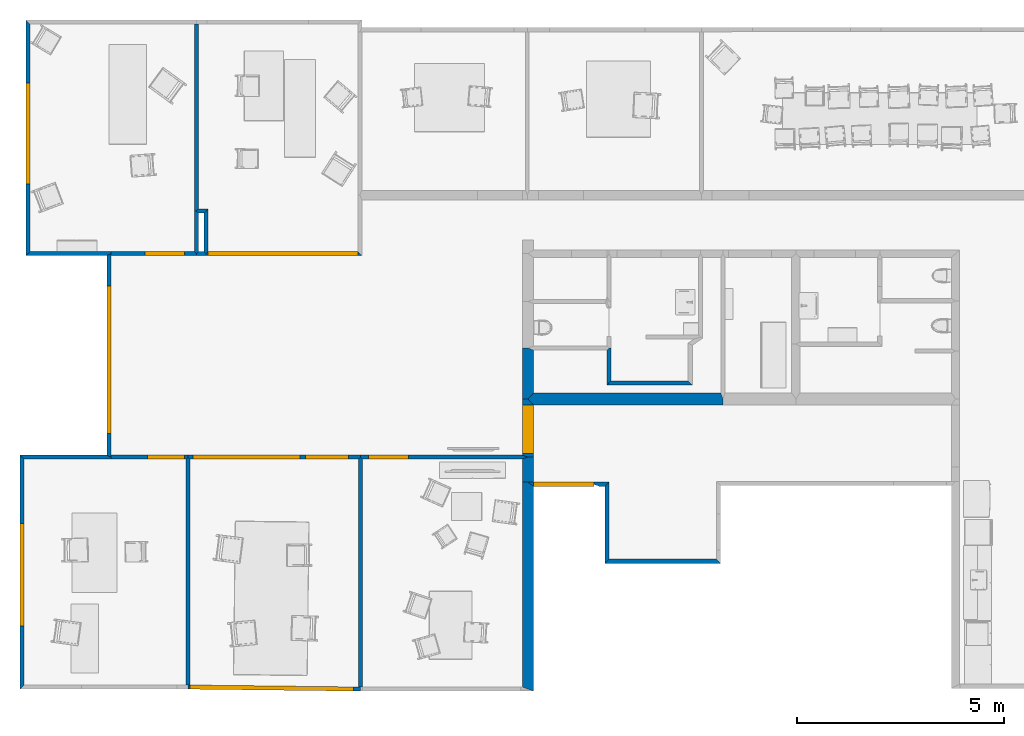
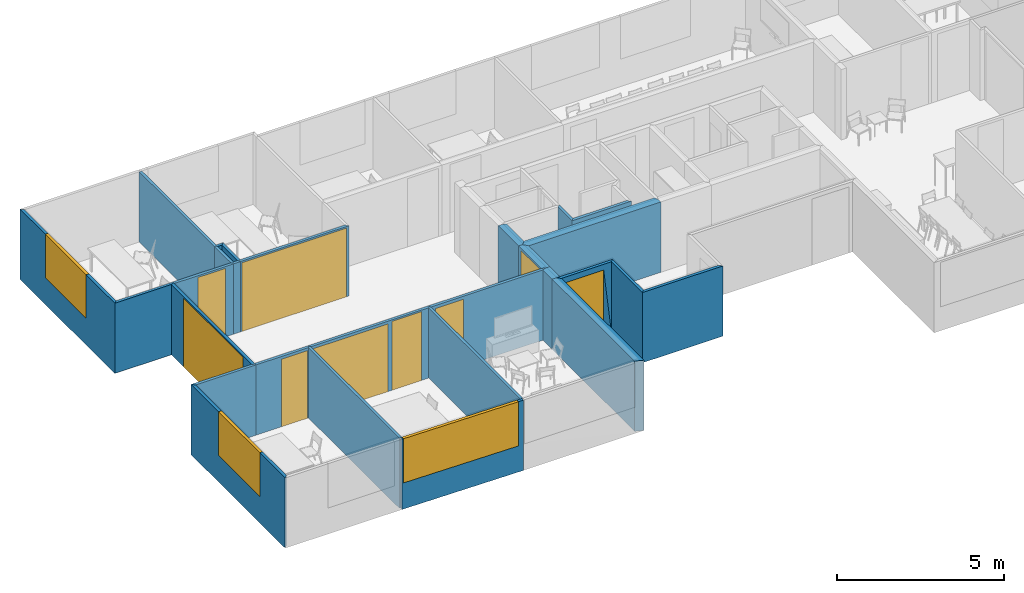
# One storey, part 2 of 26: 28 walls, 8 doors, 4 windows, 12 openings.
"""IFC2X3 building model written with IfcOpenShell, lengths in metres."""

from ifc_helpers import new_model, si_unit, direction, frame, origin_with_axes, place, context, subcontext, project, spatial, polyline, outline, extrude, type_object, element, fill, save


model = new_model("IFC2X3")

# Units and contexts
model_context = context("Model", 3, precision=1e-05, world=origin_with_axes(), true_north=direction((0.996, -0.093, 0.0)))
body_context = subcontext(model_context, "Body", "Model", "MODEL_VIEW")
ifc_project = project(units=[si_unit("AREAUNIT", "SQUARE_METRE"), si_unit("LENGTHUNIT", "METRE")], contexts=[model_context])

# Site, building, storey
site_placement = place(None, origin_with_axes())
site = spatial("IfcSite", under=ifc_project, at=site_placement, Name="Site", CompositionType="ELEMENT")
building_placement = place(site_placement, origin_with_axes())
building = spatial("IfcBuilding", under=site, at=building_placement, Name="Building", CompositionType="ELEMENT")
storey_placement = place(building_placement, frame((0.0, 0.0, 0.0500001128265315), z_axis=(0.0, 0.0, 1.0), x_axis=(1.0, 0.0, 0.0)))
storey = spatial("IfcBuildingStorey", under=building, at=storey_placement, Name="Story 0", CompositionType="ELEMENT", Elevation=0.0499999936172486)

# Walls
wall_type_1 = type_object("IfcWallType", PredefinedType="STANDARD")
wall_1_placement = place(storey_placement, frame((5.97817115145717, 0.769211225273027, 0.0), z_axis=(0.0, 0.0, 1.0), x_axis=(1.0, 0.0, 0.0)))
element("IfcWallStandardCase", 1, at=wall_1_placement, inside=storey, type_object=wall_type_1, Name="Wall", context=body_context, shape_type="SweptSolid", body=[
    extrude(outline(polyline([(0.0, 0.0), (0.0463823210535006, 0.0463823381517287), (0.0927646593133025, 1.72635581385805e-08), (0.0927656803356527, -5.50465695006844), (0.0463833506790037, -5.50465696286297), (1.02091997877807e-06, -5.5041050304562), (0.0, 0.0)])), origin_with_axes(), (0.0, 0.0, 1.0), 2.5729394),
])
wall_type_2 = type_object("IfcWallType", PredefinedType="STANDARD")
wall_2_placement = place(storey_placement, frame((1.81270429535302, 0.76921045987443, 0.0), z_axis=(0.0, 0.0, 1.0), x_axis=(1.0, 0.0, 0.0)))
element("IfcWallStandardCase", 2, at=wall_2_placement, inside=storey, type_object=wall_type_2, Name="Wall", context=body_context, shape_type="SweptSolid", body=[
    extrude(outline(polyline([(0.0, 0.0), (0.046382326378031, 0.0463823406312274), (0.0927646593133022, 1.94696530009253e-08), (0.0927650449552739, -5.45564062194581), (0.0463827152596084, -5.4550886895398), (3.85602955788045e-07, -5.45508869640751), (0.0, 0.0)])), origin_with_axes(), (0.0, 0.0, 1.0), 2.5729394),
])

# Wall, opening, window
wall_type_3 = type_object("IfcWallType", PredefinedType="STANDARD")
wall_3_placement = place(storey_placement, frame((1.85789712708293, -4.7858711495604, 0.0), z_axis=(0.0, 0.0, 1.0), x_axis=(1.0, 0.0, 0.0)))
wall_3 = element("IfcWallStandardCase", 3, at=wall_3_placement, inside=storey, type_object=wall_type_3, Name="Wall", context=body_context, shape_type="SweptSolid", body=[
    extrude(outline(polyline([(0.0, 0.0), (0.00118988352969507, 0.0999929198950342), (0.0475722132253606, 0.0994409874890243), (4.12027504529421, 0.0509773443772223), (4.16665737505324, 0.0504254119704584), (4.16546749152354, -0.0495675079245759), (0.0, 0.0)])), origin_with_axes(), (0.0, 0.0, 1.0), 2.5729394),
])
opening_1_placement = place(wall_3_placement, frame((4.00351913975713, 0.0523666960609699, 0.95597679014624), z_axis=(0.0, 0.0, 1.0), x_axis=(-0.999929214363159, 0.0118987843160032, 0.0)))
opening_1 = element("IfcOpeningElement", 4, at=opening_1_placement, cuts=wall_3, Name="OpeningElement", ObjectType="OPENING", context=body_context, shape_type="SweptSolid", body=[
    extrude(outline(polyline([(-8.88178419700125e-16, 0.0), (3.95622619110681, 0.0), (3.95622619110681, 1.6169624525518), (-8.88178419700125e-16, 1.6169624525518), (-8.88178419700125e-16, 0.0)])), frame((0.0, 0.0, 0.0), z_axis=(0.0, -1.0, 0.0), x_axis=(1.0, 0.0, 0.0)), (0.0, 0.0, -1.0), 0.100099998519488),
])
window_style_1 = type_object("IfcWindowStyle", Name="0eed9ed4-4338-484c-94e7-a7655e26b1a2", ConstructionType="ALUMINIUM", OperationType="SINGLE_PANEL", ParameterTakesPrecedence=True, Sizeable=True)
window_1_placement = place(opening_1_placement, origin_with_axes())
window_1 = element("IfcWindow", 5, at=window_1_placement, inside=storey, type_object=window_style_1, Name="Window", OverallHeight=1.5, OverallWidth=0.5, context=body_context, shape_type="SweptSolid", body=[
    extrude(outline(polyline([(0.0, 0.0), (-3.95622606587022, 0.0), (-3.95622606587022, 1.61696247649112), (0.0, 1.61696247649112), (0.0, 0.0)])), frame((0.0, 0.099999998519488, 0.0), z_axis=(0.0, 1.0, 0.0), x_axis=(-1.0, 0.0, 0.0)), (0.0, 0.0, -1.0), 0.099999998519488),
])
fill(opening_1, window_1)

# Wall, openings, door, window
wall_type_4 = type_object("IfcWallType", PredefinedType="STANDARD")
wall_4_placement = place(storey_placement, frame((1.90546895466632, 0.769210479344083, 0.0), z_axis=(0.0, 0.0, 1.0), x_axis=(1.0, 0.0, 0.0)))
wall_4 = element("IfcWallStandardCase", 6, at=wall_4_placement, inside=storey, type_object=wall_type_4, Name="Wall", context=body_context, shape_type="SweptSolid", body=[
    extrude(outline(polyline([(0.0, 0.0), (-0.0463823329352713, 0.0463823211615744), (-0.0463823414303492, 0.0927646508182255), (4.11908450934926, 0.0927654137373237), (4.11908451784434, 0.0463830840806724), (4.07270219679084, 7.45928943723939e-07), (0.0, 0.0)])), origin_with_axes(), (0.0, 0.0, 1.0), 2.5729394),
])
opening_2_placement = place(wall_4_placement, frame((3.827372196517, 0.092765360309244, 0.0), z_axis=(0.0, 0.0, 1.0), x_axis=(-1.00000000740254, 0.0, 0.0)))
opening_2 = element("IfcOpeningElement", 7, at=opening_2_placement, cuts=wall_4, Name="OpeningElement", ObjectType="OPENING", context=body_context, shape_type="SweptSolid", body=[
    extrude(outline(polyline([(8.88178419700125e-16, 0.0), (1.03013872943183, 0.0), (1.03013872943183, 2.51796546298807), (8.88178419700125e-16, 2.51796546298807), (8.88178419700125e-16, 0.0)])), frame((0.0, 0.0, 0.0), z_axis=(0.0, -1.0, 0.0), x_axis=(1.0, 0.0, 0.0)), (0.0, 0.0, -1.0), 0.0928646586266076),
])
opening_3_placement = place(wall_4_placement, frame((2.66170919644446, 0.0927651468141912, 0.0), z_axis=(0.0, 0.0, 1.0), x_axis=(-1.00000000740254, 0.0, 0.0)))
opening_3 = element("IfcOpeningElement", 8, at=opening_3_placement, cuts=wall_4, Name="OpeningElement", ObjectType="OPENING", context=body_context, shape_type="SweptSolid", body=[
    extrude(outline(polyline([(0.0, 0.0), (2.58160064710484, 0.0), (2.58160064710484, 2.47384628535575), (0.0, 2.47384628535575), (0.0, 0.0)])), frame((0.0, 0.0, 0.0), z_axis=(0.0, -1.0, 0.0), x_axis=(1.0, 0.0, 0.0)), (0.0, 0.0, -1.0), 0.0928646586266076),
])
door_style_1 = type_object("IfcDoorStyle", Name="cce4fcfa-782d-40ef-bd76-f860560d97e0", ConstructionType="NOTDEFINED", OperationType="NOTDEFINED", ParameterTakesPrecedence=False, Sizeable=False)
door_1_placement = place(opening_2_placement, origin_with_axes())
door_1 = element("IfcDoor", 9, at=door_1_placement, inside=storey, type_object=door_style_1, Name="Door", OverallHeight=2.51796607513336, OverallWidth=1.03013890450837, context=body_context, shape_type="SweptSolid", body=[
    extrude(outline(polyline([(8.88178419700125e-16, 0.0), (-1.03013861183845, 0.0), (-1.03013861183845, 2.51796550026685), (8.88178419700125e-16, 2.51796550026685), (8.88178419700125e-16, 0.0)])), frame((0.0, 0.0927646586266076, 0.0), z_axis=(0.0, 1.0, 0.0), x_axis=(-1.0, 0.0, 0.0)), (0.0, 0.0, -1.0), 0.0927646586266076),
])
fill(opening_2, door_1)
window_style_2 = type_object("IfcWindowStyle", Name="16ed6cdc-031b-4af3-962c-c4e9cde02cf6", ConstructionType="ALUMINIUM", OperationType="SINGLE_PANEL", ParameterTakesPrecedence=True, Sizeable=True)
window_2_placement = place(opening_3_placement, origin_with_axes())
window_2 = element("IfcWindow", 10, at=window_2_placement, inside=storey, type_object=window_style_2, Name="Window", OverallHeight=1.5, OverallWidth=0.5, context=body_context, shape_type="SweptSolid", body=[
    extrude(outline(polyline([(-8.88178419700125e-16, 0.0), (-2.58160035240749, 0.0), (-2.58160035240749, 2.47384632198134), (-8.88178419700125e-16, 2.47384632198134), (-8.88178419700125e-16, 0.0)])), frame((0.0, 0.0927646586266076, 0.0), z_axis=(0.0, 1.0, 0.0), x_axis=(-1.0, 0.0, 0.0)), (0.0, 0.0, -1.0), 0.0927646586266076),
])
fill(opening_3, window_2)

# Wall
wall_type_5 = type_object("IfcWallType", PredefinedType="STANDARD")
wall_5_placement = place(storey_placement, frame((9.93547154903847, 2.22077847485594, 0.0), z_axis=(0.0, 0.0, 1.0), x_axis=(1.0, 0.0, 0.0)))
element("IfcWallStandardCase", 11, at=wall_5_placement, inside=storey, type_object=wall_type_5, Name="Wall", context=body_context, shape_type="SweptSolid", body=[
    extrude(outline(polyline([(0.0, 0.0), (2.24664894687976e-07, 1.22817826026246), (0.133709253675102, 1.2281782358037), (0.267418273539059, 1.17817827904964), (0.267418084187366, 0.143047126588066), (0.133709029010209, -2.44587661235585e-08), (0.0, 0.0)])), origin_with_axes(), (0.0, 0.0, 1.0), 2.5729394),
])

# Wall, opening, door
wall_type_6 = type_object("IfcWallType", PredefinedType="STANDARD")
wall_6_placement = place(storey_placement, frame((9.93547231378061, 0.86197663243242, 0.0), z_axis=(0.0, 0.0, 1.0), x_axis=(1.0, 0.0, 0.0)))
wall_6 = element("IfcWallStandardCase", 12, at=wall_6_placement, inside=storey, type_object=wall_type_6, Name="Wall", context=body_context, shape_type="SweptSolid", body=[
    extrude(outline(polyline([(0.0, 0.0), (-7.64742114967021e-07, 1.35880174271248), (0.133708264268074, 1.35880181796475), (0.267417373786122, 1.21575469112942), (0.267418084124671, -0.0463822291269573), (0.13370905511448, -0.0463823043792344), (0.0, 0.0)])), origin_with_axes(), (0.0, 0.0, 1.0), 2.5729394),
])
opening_4_placement = place(wall_6_placement, frame((0.0, 1.21575454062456, 0.0), z_axis=(0.0, 0.0, 1.0), x_axis=(0.0, -1.0000000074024, 0.0)))
opening_4 = element("IfcOpeningElement", 13, at=opening_4_placement, cuts=wall_6, Name="OpeningElement", ObjectType="OPENING", context=body_context, shape_type="SweptSolid", body=[
    extrude(outline(polyline([(8.47388701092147e-17, 0.0), (1.17969466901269, 0.0), (1.17969466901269, 2.4905647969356), (8.47388701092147e-17, 2.4905647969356), (8.47388701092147e-17, 0.0)])), frame((0.0, 0.0, 0.0), z_axis=(0.0, -1.0, 0.0), x_axis=(1.0, 0.0, 0.0)), (0.0, 0.0, -1.0), 0.267518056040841),
])
door_style_2 = type_object("IfcDoorStyle", Name="5e53d73c-768a-4da0-85ec-330269c791f5", ConstructionType="NOTDEFINED", OperationType="NOTDEFINED", ParameterTakesPrecedence=False, Sizeable=False)
door_2_placement = place(opening_4_placement, origin_with_axes())
door_2 = element("IfcDoor", 14, at=door_2_placement, inside=storey, type_object=door_style_2, Name="Door", OverallHeight=2.49056467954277, OverallWidth=1.32274191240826, context=body_context, shape_type="SweptSolid", body=[
    extrude(outline(polyline([(1.05133729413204e-17, 0.0), (-1.17969470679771, 0.0), (-1.17969470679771, 2.49056483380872), (1.05133729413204e-17, 2.49056483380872), (1.05133729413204e-17, 0.0)])), frame((0.0, 0.267418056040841, 0.0), z_axis=(0.0, 1.0, 0.0), x_axis=(-1.0, 0.0, 0.0)), (0.0, 0.0, -1.0), 0.267418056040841),
])
fill(opening_4, door_2)

wall_type_7 = type_object("IfcWallType", PredefinedType="STANDARD")
wall_7_placement = place(storey_placement, frame((2.29671740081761, 5.6825010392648, 0.0), z_axis=(0.0, 0.0, 1.0), x_axis=(1.0, 0.0, 0.0)))
wall_7 = element("IfcWallStandardCase", 15, at=wall_7_placement, inside=storey, type_object=wall_type_7, Name="Wall", context=body_context, shape_type="SweptSolid", body=[
    extrude(outline(polyline([(0.0, 0.0), (-7.37930339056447e-09, 0.0463823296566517), (0.0499999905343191, 0.0927646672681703), (3.66779501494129, 0.0927652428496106), (3.7605596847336, 5.98294914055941e-07), (0.0, 0.0)])), origin_with_axes(), (0.0, 0.0, 1.0), 2.5729394),
])
opening_5_placement = place(wall_7_placement, frame((0.0500000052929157, 0.0, 0.0), z_axis=(0.0, 0.0, 1.0), x_axis=(1.00000000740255, 0.0, 0.0)))
opening_5 = element("IfcOpeningElement", 16, at=opening_5_placement, cuts=wall_7, Name="OpeningElement", ObjectType="OPENING", context=body_context, shape_type="SweptSolid", body=[
    extrude(outline(polyline([(-4.44089209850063e-16, 0.0), (3.6177944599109, 0.0), (3.6177944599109, 2.51467010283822), (-4.44089209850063e-16, 2.51467010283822), (-4.44089209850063e-16, 0.0)])), frame((0.0, 0.0, 0.0), z_axis=(0.0, -1.0, 0.0), x_axis=(1.0, 0.0, 0.0)), (0.0, 0.0, -1.0), 0.0928646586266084),
])
door_style_3 = type_object("IfcDoorStyle", Name="82897ba1-1f0a-4792-b71b-03692357a841", ConstructionType="NOTDEFINED", OperationType="NOTDEFINED", ParameterTakesPrecedence=False, Sizeable=False)
door_3_placement = place(opening_5_placement, origin_with_axes())
door_3 = element("IfcDoor", 17, at=door_3_placement, inside=storey, type_object=door_style_3, Name="Door", OverallHeight=2.51467089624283, OverallWidth=3.69538188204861, context=body_context, shape_type="SweptSolid", body=[
    extrude(outline(polyline([(4.44089209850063e-16, 0.0), (-3.61779419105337, 0.0), (-3.61779419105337, 2.51467014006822), (4.44089209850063e-16, 2.51467014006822), (4.44089209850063e-16, 0.0)])), frame((0.0, 0.0927646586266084, 0.0), z_axis=(0.0, 1.0, 0.0), x_axis=(-1.0, 0.0, 0.0)), (0.0, 0.0, -1.0), 0.0927646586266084),
])
fill(opening_5, door_3)

wall_type_8 = type_object("IfcWallType", PredefinedType="STANDARD")
wall_8_placement = place(storey_placement, frame((-0.095288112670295, 5.68250054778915, 0.0), z_axis=(0.0, 0.0, 1.0), x_axis=(1.0, 0.0, 0.0)))
wall_8 = element("IfcWallStandardCase", 18, at=wall_8_placement, inside=storey, type_object=wall_type_8, Name="Wall", context=body_context, shape_type="SweptSolid", body=[
    extrude(outline(polyline([(0.0, 0.0), (0.0999999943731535, 0.0463823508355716), (0.0999999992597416, 2.11789190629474e-08), (0.100000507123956, -4.82052585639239), (0.100000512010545, -4.86690818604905), (5.07864214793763e-07, -4.82052588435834), (0.0, 0.0)])), origin_with_axes(), (0.0, 0.0, 1.0), 2.5729394),
])
opening_6_placement = place(wall_8_placement, frame((0.100000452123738, -4.29847691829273, 0.0), z_axis=(0.0, 0.0, 1.0), x_axis=(0.0, 1.00000000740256, 0.0)))
opening_6 = element("IfcOpeningElement", 19, at=opening_6_placement, cuts=wall_8, Name="OpeningElement", ObjectType="OPENING", context=body_context, shape_type="SweptSolid", body=[
    extrude(outline(polyline([(-2.30182344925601e-17, 0.0), (3.56464451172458, 0.0), (3.56464451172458, 2.51561018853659), (-2.30182344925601e-17, 2.51561018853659), (-2.30182344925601e-17, 0.0)])), frame((0.0, 0.0, 0.0), z_axis=(0.0, -1.0, 0.0), x_axis=(1.0, 0.0, 0.0)), (0.0, 0.0, -1.0), 0.100099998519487),
])
door_style_4 = type_object("IfcDoorStyle", Name="b6a9324c-7650-4008-87e2-894cc8915f61", ConstructionType="NOTDEFINED", OperationType="NOTDEFINED", ParameterTakesPrecedence=False, Sizeable=False)
door_4_placement = place(opening_6_placement, origin_with_axes())
door_4 = element("IfcDoor", 20, at=door_4_placement, inside=storey, type_object=door_style_4, Name="Door", OverallHeight=2.51561022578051, OverallWidth=3.56464607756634, context=body_context, shape_type="SweptSolid", body=[
    extrude(outline(polyline([(-5.89785216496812e-17, 0.0), (-3.56464423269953, 0.0), (-3.56464423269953, 2.51561022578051), (-5.89785216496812e-17, 2.51561022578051), (-5.89785216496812e-17, 0.0)])), frame((0.0, 0.0999999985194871, 0.0), z_axis=(0.0, 1.0, 0.0), x_axis=(-1.0, 0.0, 0.0)), (0.0, 0.0, -1.0), 0.0999999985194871),
])
fill(opening_6, door_4)

wall_type_9 = type_object("IfcWallType", PredefinedType="STANDARD")
wall_9_placement = place(storey_placement, frame((0.00471188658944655, 5.68250056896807, 0.0), z_axis=(0.0, 0.0, 1.0), x_axis=(1.0, 0.0, 0.0)))
wall_9 = element("IfcWallStandardCase", 21, at=wall_9_placement, inside=storey, type_object=wall_type_9, Name="Wall", context=body_context, shape_type="SweptSolid", body=[
    extrude(outline(polyline([(0.0, 0.0), (-4.88658802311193e-09, 0.0463823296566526), (-4.60571125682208e-09, 0.0927646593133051), (2.01292483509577, 0.0927646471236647), (2.05930716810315, 0.0463823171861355), (2.05930716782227, -1.24705161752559e-08), (0.0, 0.0)])), origin_with_axes(), (0.0, 0.0, 1.0), 2.5729394),
])
opening_7_placement = place(wall_9_placement, frame((0.816121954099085, 0.0, 0.0), z_axis=(0.0, 0.0, 1.0), x_axis=(1.00000000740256, 0.0, 0.0)))
opening_7 = element("IfcOpeningElement", 22, at=opening_7_placement, cuts=wall_9, Name="OpeningElement", ObjectType="OPENING", context=body_context, shape_type="SweptSolid", body=[
    extrude(outline(polyline([(-1.11022302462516e-16, 0.0), (0.955002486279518, 0.0), (0.955002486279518, 2.50740356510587), (-1.11022302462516e-16, 2.50740356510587), (-1.11022302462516e-16, 0.0)])), frame((0.0, 0.0, 0.0), z_axis=(0.0, -1.0, 0.0), x_axis=(1.0, 0.0, 0.0)), (0.0, 0.0, -1.0), 0.092864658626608),
])
door_style_5 = type_object("IfcDoorStyle", Name="696feb45-4242-45aa-92b1-9f001ba3631d", ConstructionType="NOTDEFINED", OperationType="NOTDEFINED", ParameterTakesPrecedence=False, Sizeable=False)
door_5_placement = place(opening_7_placement, origin_with_axes())
door_5 = element("IfcDoor", 23, at=door_5_placement, inside=storey, type_object=door_style_5, Name="Door", OverallHeight=2.50740435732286, OverallWidth=0.955002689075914, context=body_context, shape_type="SweptSolid", body=[
    extrude(outline(polyline([(0.0, 0.0), (-0.955002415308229, 0.0), (-0.955002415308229, 2.50740360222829), (0.0, 2.50740360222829), (0.0, 0.0)])), frame((0.0, 0.092764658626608, 0.0), z_axis=(0.0, 1.0, 0.0), x_axis=(-1.0, 0.0, 0.0)), (0.0, 0.0, -1.0), 0.092764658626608),
])
fill(opening_7, door_5)

# Wall
wall_type_10 = type_object("IfcWallType", PredefinedType="STANDARD")
wall_10_placement = place(storey_placement, frame((2.06401915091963, 5.68250055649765, 0.0), z_axis=(0.0, 0.0, 1.0), x_axis=(1.0, 0.0, 0.0)))
element("IfcWallStandardCase", 24, at=wall_10_placement, inside=storey, type_object=wall_type_10, Name="Wall", context=body_context, shape_type="SweptSolid", body=[
    extrude(outline(polyline([(0.0, 0.0), (-9.62270281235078e-08, 0.0463823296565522), (0.0463822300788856, 0.0927647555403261), (0.182698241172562, 0.0927650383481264), (0.232698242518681, 0.0463828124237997), (0.232698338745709, 4.82767247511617e-07), (0.0, 0.0)])), origin_with_axes(), (0.0, 0.0, 1.0), 2.5729394),
])

# Wall, opening, door
wall_type_11 = type_object("IfcWallType", PredefinedType="STANDARD")
wall_11_placement = place(storey_placement, frame((6.07093581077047, 0.769211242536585, 0.0), z_axis=(0.0, 0.0, 1.0), x_axis=(1.0, 0.0, 0.0)))
wall_11 = element("IfcWallStandardCase", 25, at=wall_11_placement, inside=storey, type_object=wall_type_11, Name="Wall", context=body_context, shape_type="SweptSolid", body=[
    extrude(outline(polyline([(0.0, 0.0), (-0.0463823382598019, 0.0463823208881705), (-0.0463823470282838, 0.0927646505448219), (3.86453650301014, 0.0927653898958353), (3.99824555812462, 0.0463830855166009), (3.8645365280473, 7.30582535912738e-07), (0.0, 0.0)])), origin_with_axes(), (0.0, 0.0, 1.0), 2.5729394),
])
opening_8_placement = place(wall_11_placement, frame((1.11289631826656, 0.0927648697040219, 0.0), z_axis=(0.0, 0.0, 1.0), x_axis=(-1.00000000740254, 0.0, 0.0)))
opening_8 = element("IfcOpeningElement", 26, at=opening_8_placement, cuts=wall_11, Name="OpeningElement", ObjectType="OPENING", context=body_context, shape_type="SweptSolid", body=[
    extrude(outline(polyline([(0.0, 0.0), (0.965712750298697, 0.0), (0.965712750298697, 2.46230293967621), (0.0, 2.46230293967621), (0.0, 0.0)])), frame((0.0, 0.0, 0.0), z_axis=(0.0, -1.0, 0.0), x_axis=(1.0, 0.0, 0.0)), (0.0, 0.0, -1.0), 0.0928646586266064),
])
door_style_6 = type_object("IfcDoorStyle", Name="57eda0e6-08e3-4fb8-8fbb-87b894cb82e7", ConstructionType="NOTDEFINED", OperationType="NOTDEFINED", ParameterTakesPrecedence=False, Sizeable=False)
door_6_placement = place(opening_8_placement, origin_with_axes())
door_6 = element("IfcDoor", 27, at=door_6_placement, inside=storey, type_object=door_style_6, Name="Door", OverallHeight=2.4623029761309, OverallWidth=0.965714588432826, context=body_context, shape_type="SweptSolid", body=[
    extrude(outline(polyline([(0.0, 0.0), (-0.965712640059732, 0.0), (-0.965712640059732, 2.4623029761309), (0.0, 2.4623029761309), (0.0, 0.0)])), frame((0.0, 0.0927646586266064, 0.0), z_axis=(0.0, 1.0, 0.0), x_axis=(-1.0, 0.0, 0.0)), (0.0, 0.0, -1.0), 0.0927646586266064),
])
fill(opening_8, door_6)

wall_type_12 = type_object("IfcWallType", PredefinedType="STANDARD")
wall_12_placement = place(storey_placement, frame((0.00471241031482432, 0.769210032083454, 0.0), z_axis=(0.0, 0.0, 1.0), x_axis=(1.0, 0.0, 0.0)))
wall_12 = element("IfcWallStandardCase", 28, at=wall_12_placement, inside=storey, type_object=wall_type_12, Name="Wall", context=body_context, shape_type="SweptSolid", body=[
    extrude(outline(polyline([(0.0, 0.0), (-1.09745747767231e-08, 0.0463823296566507), (-1.58611630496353e-08, 0.0927646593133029), (1.85437420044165, 0.0927650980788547), (1.85437421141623, 0.0463827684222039), (1.8079918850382, 4.27790976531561e-07), (0.0, 0.0)])), origin_with_axes(), (0.0, 0.0, 1.0), 2.5729394),
])
opening_9_placement = place(wall_12_placement, frame((1.77523099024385, 0.0927650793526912, 0.0), z_axis=(0.0, 0.0, 1.0), x_axis=(-1.00000000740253, 0.0, 0.0)))
opening_9 = element("IfcOpeningElement", 29, at=opening_9_placement, cuts=wall_12, Name="OpeningElement", ObjectType="OPENING", context=body_context, shape_type="SweptSolid", body=[
    extrude(outline(polyline([(0.0, 0.0), (0.897741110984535, 0.0), (0.897741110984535, 2.47437964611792), (0.0, 2.47437964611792), (0.0, 0.0)])), frame((0.0, 0.0, 0.0), z_axis=(0.0, -1.0, 0.0), x_axis=(1.0, 0.0, 0.0)), (0.0, 0.0, -1.0), 0.092864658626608),
])
door_style_7 = type_object("IfcDoorStyle", Name="1cbb9abe-abf4-47e8-9234-94e0bda5de8a", ConstructionType="NOTDEFINED", OperationType="NOTDEFINED", ParameterTakesPrecedence=False, Sizeable=False)
door_7_placement = place(opening_9_placement, origin_with_axes())
door_7 = element("IfcDoor", 30, at=door_7_placement, inside=storey, type_object=door_style_7, Name="Door", OverallHeight=2.47438083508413, OverallWidth=0.897741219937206, context=body_context, shape_type="SweptSolid", body=[
    extrude(outline(polyline([(2.22044604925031e-16, 0.0), (-0.897741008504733, 0.0), (-0.897741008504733, 2.47437968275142), (2.22044604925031e-16, 2.47437968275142), (2.22044604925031e-16, 0.0)])), frame((0.0, 0.092764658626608, 0.0), z_axis=(0.0, 1.0, 0.0), x_axis=(-1.0, 0.0, 0.0)), (0.0, 0.0, -1.0), 0.092764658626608),
])
fill(opening_9, door_7)

# Walls
wall_type_13 = type_object("IfcWallType", PredefinedType="STANDARD")
wall_13_placement = place(storey_placement, frame((2.11040131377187, 6.70584660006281, 0.0), z_axis=(0.0, 0.0, 1.0), x_axis=(1.0, 0.0, 0.0)))
element("IfcWallStandardCase", 31, at=wall_13_placement, inside=storey, type_object=wall_type_13, Name="Wall", context=body_context, shape_type="SweptSolid", body=[
    extrude(outline(polyline([(0.0, 0.0), (-0.0463823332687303, 0.0500000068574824), (-6.64450983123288e-09, 0.0999999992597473), (0.236316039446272, 0.099999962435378), (0.136316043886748, -2.12416901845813e-08), (0.0, 0.0)])), origin_with_axes(), (0.0, 0.0, 1.0), 2.5729394),
])
wall_type_14 = type_object("IfcWallType", PredefinedType="STANDARD")
wall_14_placement = place(storey_placement, frame((2.24671739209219, 5.77526559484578, 0.0), z_axis=(0.0, 0.0, 1.0), x_axis=(1.0, 0.0, 0.0)))
element("IfcWallStandardCase", 32, at=wall_14_placement, inside=storey, type_object=wall_type_14, Name="Wall", context=body_context, shape_type="SweptSolid", body=[
    extrude(outline(polyline([(0.0, 0.0), (-3.44335679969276e-08, 0.930580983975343), (0.0999999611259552, 1.03058096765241), (0.0999999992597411, 1.11687191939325e-07), (0.0500000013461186, -0.0463822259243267), (0.0, 0.0)])), origin_with_axes(), (0.0, 0.0, 1.0), 2.5729394),
])
wall_type_15 = type_object("IfcWallType", PredefinedType="STANDARD")
wall_15_placement = place(storey_placement, frame((2.01763637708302, 11.2697735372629, 0.0), z_axis=(0.0, 0.0, 1.0), x_axis=(1.0, 0.0, 0.0)))
element("IfcWallStandardCase", 33, at=wall_15_placement, inside=storey, type_object=wall_type_15, Name="Wall", context=body_context, shape_type="SweptSolid", body=[
    extrude(outline(polyline([(0.0, 0.0), (0.0463823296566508, 9.54272394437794e-09), (0.0927646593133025, 1.823529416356e-08), (0.0927649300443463, -4.46392693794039), (0.0463826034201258, -4.51392693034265), (2.73763473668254e-07, -4.51392693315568), (0.0, 0.0)])), origin_with_axes(), (0.0, 0.0, 1.0), 2.5729394),
])
wall_type_16 = type_object("IfcWallType", PredefinedType="STANDARD")
wall_16_placement = place(storey_placement, frame((11.9811411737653, 2.55763641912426, 0.0), z_axis=(0.0, 0.0, 1.0), x_axis=(1.0, 0.0, 0.0)))
element("IfcWallStandardCase", 34, at=wall_16_placement, inside=storey, type_object=wall_type_16, Name="Wall", context=body_context, shape_type="SweptSolid", body=[
    extrude(outline(polyline([(0.0, 0.0), (0.0927646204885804, 0.100000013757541), (1.95548213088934, 0.100000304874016), (2.05548203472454, 3.21242842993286e-07), (0.0, 0.0)])), origin_with_axes(), (0.0, 0.0, 1.0), 2.5729394),
])
wall_type_17 = type_object("IfcWallType", PredefinedType="STANDARD")
wall_17_placement = place(storey_placement, frame((11.9811408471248, 3.39895732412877, 0.0), z_axis=(0.0, 0.0, 1.0), x_axis=(1.0, 0.0, 0.0)))
element("IfcWallStandardCase", 35, at=wall_17_placement, inside=storey, type_object=wall_type_17, Name="Wall", context=body_context, shape_type="SweptSolid", body=[
    extrude(outline(polyline([(0.0, 0.0), (0.0463823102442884, 0.0500000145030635), (0.0927646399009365, 0.0500000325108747), (0.0927649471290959, -0.74132089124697), (3.26640515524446e-07, -0.84132090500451), (0.0, 0.0)])), origin_with_axes(), (0.0, 0.0, 1.0), 2.5729394),
])

# Wall, opening, window
wall_type_18 = type_object("IfcWallType", PredefinedType="STANDARD")
wall_18_placement = place(storey_placement, frame((-2.19511514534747, 0.861974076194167, 0.0), z_axis=(0.0, 0.0, 1.0), x_axis=(1.0, 0.0, 0.0)))
wall_18 = element("IfcWallStandardCase", 36, at=wall_18_placement, inside=storey, type_object=wall_type_18, Name="Wall", context=body_context, shape_type="SweptSolid", body=[
    extrude(outline(polyline([(0.0, 0.0), (0.100000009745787, -0.0927646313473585), (0.100000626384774, -5.54785289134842), (6.38428955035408e-07, -5.64785290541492), (0.0, 0.0)])), origin_with_axes(), (0.0, 0.0, 1.0), 2.5729394),
])
opening_10_placement = place(wall_18_placement, frame((0.100000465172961, -4.12169480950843, 0.975993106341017), z_axis=(0.0, 0.0, 1.0), x_axis=(0.0, 1.00000000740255, 0.0)))
opening_10 = element("IfcOpeningElement", 37, at=opening_10_placement, cuts=wall_18, Name="OpeningElement", ObjectType="OPENING", context=body_context, shape_type="SweptSolid", body=[
    extrude(outline(polyline([(1.84061741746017e-16, 0.0), (2.47029647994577, 0.0), (2.47029647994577, 1.59694613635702), (1.84061741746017e-16, 1.59694613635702), (1.84061741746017e-16, 0.0)])), frame((0.0, 0.0, 0.0), z_axis=(0.0, -1.0, 0.0), x_axis=(1.0, 0.0, 0.0)), (0.0, 0.0, -1.0), 0.100099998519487),
])
window_style_3 = type_object("IfcWindowStyle", Name="4fe28cc5-4672-4466-b03d-1c2b2363dc81", ConstructionType="ALUMINIUM", OperationType="SINGLE_PANEL", ParameterTakesPrecedence=True, Sizeable=True)
window_3_placement = place(opening_10_placement, origin_with_axes())
window_3 = element("IfcWindow", 38, at=window_3_placement, inside=storey, type_object=window_style_3, Name="Window", OverallHeight=1.5, OverallWidth=0.5, context=body_context, shape_type="SweptSolid", body=[
    extrude(outline(polyline([(4.6201729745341e-17, 0.0), (-2.47029654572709, 0.0), (-2.47029654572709, 1.59694616), (4.6201729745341e-17, 1.59694616), (4.6201729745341e-17, 0.0)])), frame((0.0, 0.0999999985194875, 0.0), z_axis=(0.0, 1.0, 0.0), x_axis=(-1.0, 0.0, 0.0)), (0.0, 0.0, -1.0), 0.0999999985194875),
])
fill(opening_10, window_3)

# Walls
wall_type_19 = type_object("IfcWallType", PredefinedType="STANDARD")
wall_19_placement = place(storey_placement, frame((-2.09511513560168, 0.769209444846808, 0.0), z_axis=(0.0, 0.0, 1.0), x_axis=(1.0, 0.0, 0.0)))
element("IfcWallStandardCase", 39, at=wall_19_placement, inside=storey, type_object=wall_type_19, Name="Wall", context=body_context, shape_type="SweptSolid", body=[
    extrude(outline(polyline([(0.0, 0.0), (-0.100000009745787, 0.0927646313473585), (1.9998275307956, 0.0927652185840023), (2.09982753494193, 0.0463829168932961), (2.09982754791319, 5.87236645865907e-07), (0.0, 0.0)])), origin_with_axes(), (0.0, 0.0, 1.0), 2.5729394),
])
wall_type_20 = type_object("IfcWallType", PredefinedType="STANDARD")
wall_20_placement = place(storey_placement, frame((10.2028896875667, 2.07773132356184, 0.0), z_axis=(0.0, 0.0, 1.0), x_axis=(1.0, 0.0, 0.0)))
element("IfcWallStandardCase", 40, at=wall_20_placement, inside=storey, type_object=wall_type_20, Name="Wall", context=body_context, shape_type="SweptSolid", body=[
    extrude(outline(polyline([(0.0, 0.0), (-0.133709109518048, 0.143047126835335), (-5.43408908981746e-08, 0.286094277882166), (4.52259833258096, 0.286094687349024), (4.57259835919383, 0.143047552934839), (4.57259837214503, 4.13993754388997e-07), (0.0, 0.0)])), origin_with_axes(), (0.0, 0.0, 1.0), 2.5729394),
])
wall_type_21 = type_object("IfcWallType", PredefinedType="STANDARD")
wall_21_placement = place(storey_placement, frame((-2.05416653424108, 5.68250013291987, 0.0), z_axis=(0.0, 0.0, 1.0), x_axis=(1.0, 0.0, 0.0)))
element("IfcWallStandardCase", 41, at=wall_21_placement, inside=storey, type_object=wall_type_21, Name="Wall", context=body_context, shape_type="SweptSolid", body=[
    extrude(outline(polyline([(0.0, 0.0), (0.0999999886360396, 0.0927646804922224), (2.05887840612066, 0.0927650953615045), (2.05887841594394, 0.0463827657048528), (1.95887842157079, 4.14869281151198e-07), (0.0, 0.0)])), origin_with_axes(), (0.0, 0.0, 1.0), 2.5729394),
])
wall_type_22 = type_object("IfcWallType", PredefinedType="STANDARD")
wall_22_placement = place(storey_placement, frame((2.01763672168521, 5.77526521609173, 0.0), z_axis=(0.0, 0.0, 1.0), x_axis=(1.0, 0.0, 0.0)))
element("IfcWallStandardCase", 42, at=wall_22_placement, inside=storey, type_object=wall_type_22, Name="Wall", context=body_context, shape_type="SweptSolid", body=[
    extrude(outline(polyline([(0.0, 0.0), (-7.08387246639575e-08, 0.980581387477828), (0.0463822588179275, 0.980581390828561), (0.0927645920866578, 0.930581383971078), (0.0927646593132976, 9.59462447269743e-08), (0.0463823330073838, -0.0463823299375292), (0.0, 0.0)])), origin_with_axes(), (0.0, 0.0, 1.0), 2.5729394),
])

# Wall, opening, window
wall_type_23 = type_object("IfcWallType", PredefinedType="STANDARD")
wall_23_placement = place(storey_placement, frame((-2.05416718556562, 11.3697726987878, 0.0), z_axis=(0.0, 0.0, 1.0), x_axis=(1.0, 0.0, 0.0)))
wall_23 = element("IfcWallStandardCase", 43, at=wall_23_placement, inside=storey, type_object=wall_type_23, Name="Wall", context=body_context, shape_type="SweptSolid", body=[
    extrude(outline(polyline([(0.0, 0.0), (0.100000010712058, -0.0999999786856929), (0.100000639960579, -5.5945078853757), (6.51324539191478e-07, -5.68727256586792), (0.0, 0.0)])), origin_with_axes(), (0.0, 0.0, 1.0), 2.5729394),
])
opening_11_placement = place(wall_23_placement, frame((0.100000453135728, -3.96318008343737, 0.977030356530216), z_axis=(0.0, 0.0, 1.0), x_axis=(0.0, 1.00000000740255, 0.0)))
opening_11 = element("IfcOpeningElement", 44, at=opening_11_placement, cuts=wall_23, Name="OpeningElement", ObjectType="OPENING", context=body_context, shape_type="SweptSolid", body=[
    extrude(outline(polyline([(2.24347025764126e-16, 0.0), (2.44464247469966, 0.0), (2.44464247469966, 1.59590888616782), (2.24347025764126e-16, 1.59590888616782), (2.24347025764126e-16, 0.0)])), frame((0.0, 0.0, 0.0), z_axis=(0.0, -1.0, 0.0), x_axis=(1.0, 0.0, 0.0)), (0.0, 0.0, -1.0), 0.100099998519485),
])
window_style_4 = type_object("IfcWindowStyle", Name="27a45fba-20c1-43b4-a042-9f7a04b8ecec", ConstructionType="ALUMINIUM", OperationType="SINGLE_PANEL", ParameterTakesPrecedence=True, Sizeable=True)
window_4_placement = place(opening_11_placement, origin_with_axes())
window_4 = element("IfcWindow", 45, at=window_4_placement, inside=storey, type_object=window_style_4, Name="Window", OverallHeight=1.5, OverallWidth=0.5, context=body_context, shape_type="SweptSolid", body=[
    extrude(outline(polyline([(-8.27399252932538e-17, 0.0), (-2.4446425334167, 0.0), (-2.4446425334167, 1.59590890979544), (-8.27399252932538e-17, 1.59590890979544), (-8.27399252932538e-17, 0.0)])), frame((0.0, 0.0999999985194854, 0.0), z_axis=(0.0, 1.0, 0.0), x_axis=(-1.0, 0.0, 0.0)), (0.0, 0.0, -1.0), 0.0999999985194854),
])
fill(opening_11, window_4)

# Wall
wall_type_24 = type_object("IfcWallType", PredefinedType="STANDARD")
wall_24_placement = place(storey_placement, frame((11.9283740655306, 0.110006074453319, 0.0), z_axis=(0.0, 0.0, 1.0), x_axis=(1.0, 0.0, 0.0)))
element("IfcWallStandardCase", 46, at=wall_24_placement, inside=storey, type_object=wall_type_24, Name="Wall", context=body_context, shape_type="SweptSolid", body=[
    extrude(outline(polyline([(0.0, 0.0), (0.09999997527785, 0.100000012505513), (0.100000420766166, -1.75760284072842), (4.45488314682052e-07, -1.85760285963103), (0.0, 0.0)])), origin_with_axes(), (0.0, 0.0, 1.0), 2.5729394),
])

# Wall, opening, door
wall_type_25 = type_object("IfcWallType", PredefinedType="STANDARD")
wall_25_placement = place(storey_placement, frame((10.2028904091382, 0.110005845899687, 0.0), z_axis=(0.0, 0.0, 1.0), x_axis=(1.0, 0.0, 0.0)))
wall_25 = element("IfcWallStandardCase", 47, at=wall_25_placement, inside=storey, type_object=wall_type_25, Name="Wall", context=body_context, shape_type="SweptSolid", body=[
    extrude(outline(polyline([(0.0, 0.0), (-0.133709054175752, 0.0999999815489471), (-2.5165540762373e-08, 0.0999999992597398), (1.82548363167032, 0.100000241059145), (1.72548365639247, 2.28553631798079e-07), (0.0, 0.0)])), origin_with_axes(), (0.0, 0.0, 1.0), 2.5729394),
])
opening_12_placement = place(wall_25_placement, frame((1.45952072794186, 0.100000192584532, 0.0), z_axis=(0.0, 0.0, 1.0), x_axis=(-1.00000000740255, 0.0, 0.0)))
opening_12 = element("IfcOpeningElement", 48, at=opening_12_placement, cuts=wall_25, Name="OpeningElement", ObjectType="OPENING", context=body_context, shape_type="SweptSolid", body=[
    extrude(outline(polyline([(-1.77635683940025e-15, 0.0), (1.45952088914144, 0.0), (1.45952088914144, 2.36662462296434), (-1.77635683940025e-15, 2.36662462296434), (-1.77635683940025e-15, 0.0)])), frame((0.0, 0.0, 0.0), z_axis=(0.0, -1.0, 0.0), x_axis=(1.0, 0.0, 0.0)), (0.0, 0.0, -1.0), 0.100099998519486),
])
door_style_8 = type_object("IfcDoorStyle", Name="fad36898-3923-4d85-b447-4088fca707df", ConstructionType="NOTDEFINED", OperationType="NOTDEFINED", ParameterTakesPrecedence=False, Sizeable=False)
door_8_placement = place(opening_12_placement, origin_with_axes())
door_8 = element("IfcDoor", 49, at=door_8_placement, inside=storey, type_object=door_style_8, Name="Door", OverallHeight=2.36662465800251, OverallWidth=1.51862431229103, context=body_context, shape_type="SweptSolid", body=[
    extrude(outline(polyline([(0.0, 0.0), (-1.4595209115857, 0.0), (-1.4595209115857, 2.36662465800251), (0.0, 2.36662465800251), (0.0, 0.0)])), frame((0.0, 0.0999999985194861, 0.0), z_axis=(0.0, 1.0, 0.0), x_axis=(-1.0, 0.0, 0.0)), (0.0, 0.0, -1.0), 0.0999999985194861),
])
fill(opening_12, door_8)

# Walls
wall_type_26 = type_object("IfcWallType", PredefinedType="STANDARD")
wall_26_placement = place(storey_placement, frame((11.9283745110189, -1.74759678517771, 0.0), z_axis=(0.0, 0.0, 1.0), x_axis=(1.0, 0.0, 0.0)))
element("IfcWallStandardCase", 50, at=wall_26_placement, inside=storey, type_object=wall_type_26, Name="Wall", context=body_context, shape_type="SweptSolid", body=[
    extrude(outline(polyline([(0.0, 0.0), (0.0999999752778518, 0.10000001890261), (2.68978951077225, 0.100000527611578), (2.78978953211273, 5.47994706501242e-07), (0.0, 0.0)])), origin_with_axes(), (0.0, 0.0, 1.0), 2.5729394),
])
wall_type_27 = type_object("IfcWallType", PredefinedType="STANDARD")
wall_27_placement = place(storey_placement, frame((9.93547232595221, 0.210005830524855, 0.0), z_axis=(0.0, 0.0, 1.0), x_axis=(1.0, 0.0, 0.0)))
element("IfcWallStandardCase", 51, at=wall_27_placement, inside=storey, type_object=wall_type_27, Name="Wall", context=body_context, shape_type="SweptSolid", body=[
    extrude(outline(polyline([(0.0, 0.0), (1.28655628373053e-08, 0.559206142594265), (0.133709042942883, 0.60558849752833), (0.267418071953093, 0.605588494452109), (0.267418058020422, 1.46345714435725e-08), (0.133709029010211, -3.07622127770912e-09), (0.0, 0.0)])), origin_with_axes(), (0.0, 0.0, 1.0), 2.5729394),
])
wall_type_28 = type_object("IfcWallType", PredefinedType="STANDARD")
wall_28_placement = place(storey_placement, frame((9.93547232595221, 0.210005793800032, 0.0), z_axis=(0.0, 0.0, 1.0), x_axis=(1.0, 0.0, 0.0)))
element("IfcWallStandardCase", 52, at=wall_28_placement, inside=storey, type_object=wall_type_28, Name="Wall", context=body_context, shape_type="SweptSolid", body=[
    extrude(outline(polyline([(0.0, 0.0), (0.133709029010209, 3.3648601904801e-08), (0.26741808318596, -0.0999999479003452), (0.267419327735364, -5.04545037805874), (1.24454941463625e-06, -4.94545045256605), (0.0, 0.0)])), origin_with_axes(), (0.0, 0.0, 1.0), 2.5729394),
])

save(model, "model.ifc")
